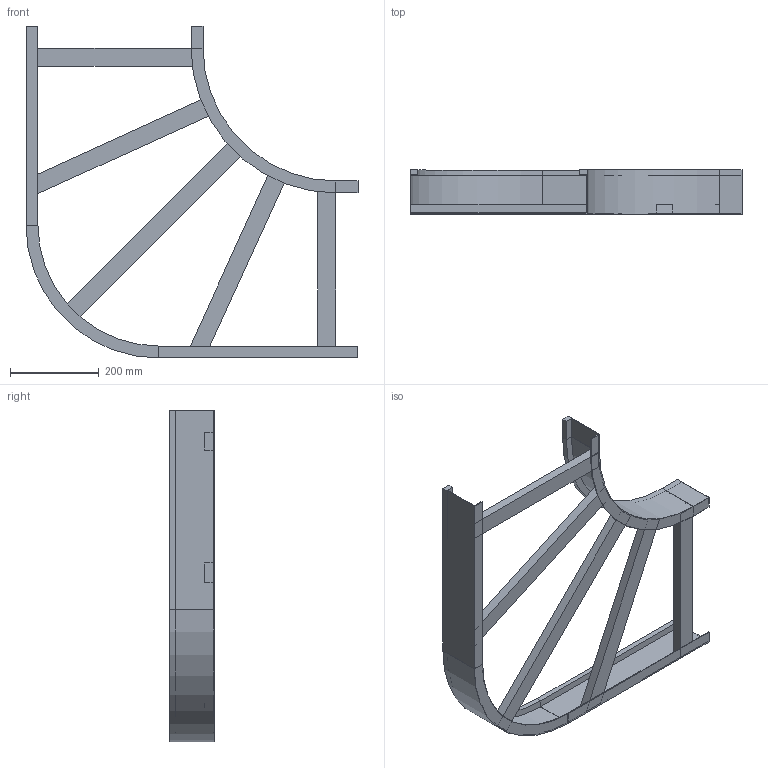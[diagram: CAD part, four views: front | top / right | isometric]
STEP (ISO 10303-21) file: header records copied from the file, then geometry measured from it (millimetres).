
FILE_DESCRIPTION (( 'STEP AP214' ), '1' );
FILE_NAME ('B2_10B3D400.step', '2025-02-21T15:23:30', ( '' ), ( '' ), 'SwSTEP 2.0', 'SolidWorks 2023', '' );
FILE_SCHEMA (( 'AUTOMOTIVE_DESIGN' ));
Length unit declared in the file: millimetre
Products named in the file (6): TRAVERSINO_500_SCANTONATO; TRAVERSINO_L560; TRAVERSINO_400; B2_LONGH.INTERNO 90°_H100_R300; B2_LONGH.ESTERNO 90°_H100_R300+400; B2_10B3D400
Assembly tree (7 placements, depth 2):
  B2_10B3D400
    B2_LONGH.INTERNO 90°_H100_R300
    B2_LONGH.ESTERNO 90°_H100_R300+400
    TRAVERSINO_400  x2
    TRAVERSINO_500_SCANTONATO  x2
    TRAVERSINO_L560
Bounding box: 750 x 100 x 750 mm (x, y, z)
Volume: 2707805.2 mm3; surface area: 841829.1 mm2
Topology: 7 solids, 7 shells, 82 faces, 172 edges, 104 vertices
Faces by surface type: plane 74, cylinder 8
Entity records: 2015 total; most frequent: DIRECTION 324, CARTESIAN_POINT 316, ORIENTED_EDGE 296, EDGE_CURVE 148, VECTOR 132, LINE 132, AXIS2_PLACEMENT_3D 96, VERTEX_POINT 88
